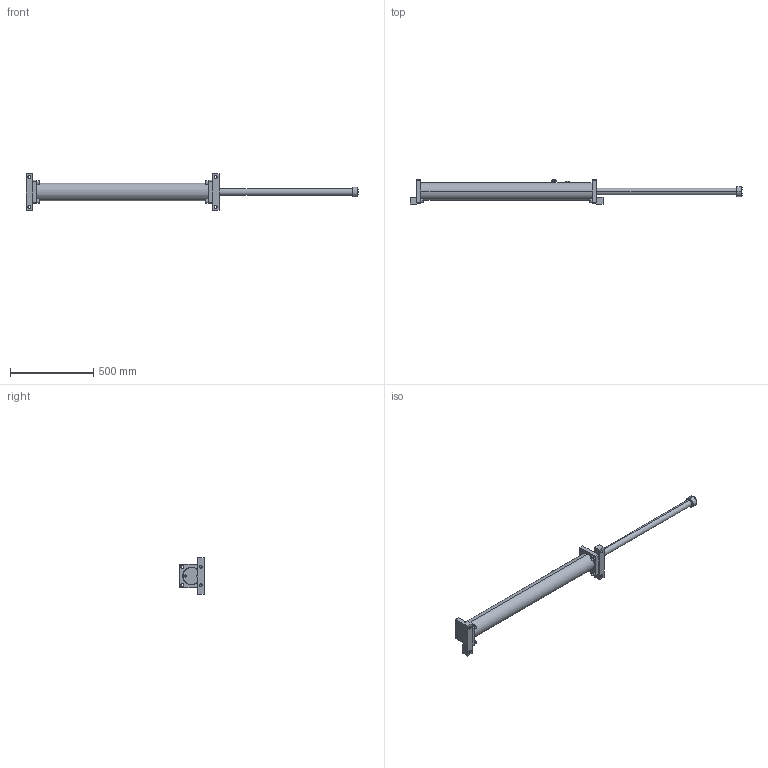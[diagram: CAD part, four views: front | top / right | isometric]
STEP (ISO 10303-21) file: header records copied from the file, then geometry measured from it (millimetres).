
FILE_DESCRIPTION (( 'STEP AP214' ), '1' );
FILE_NAME ('LDD2.0X32.STEP', '2019-01-16T06:22:32', ( 'user' ), ( 'Microsoft' ), 'SwSTEP 2.0', 'SolidWorks 2016', '' );
FILE_SCHEMA (( 'AUTOMOTIVE_DESIGN' ));
Length unit declared in the file: inch
Products named in the file (1): LDD2.0X32
Bounding box: 1993 x 145.5 x 220 mm (x, y, z)
Surface area: 692097 mm2 (no closed solid volume)
Topology: 0 solids, 25 shells, 256 faces, 686 edges, 460 vertices
Faces by surface type: plane 94, cylinder 79, cone 57, bspline 26
Entity records: 13433 total; most frequent: CARTESIAN_POINT 7101, DIRECTION 1328, ORIENTED_EDGE 1204, EDGE_CURVE 686, AXIS2_PLACEMENT_3D 513, VERTEX_POINT 460, EDGE_LOOP 313, LINE 302
